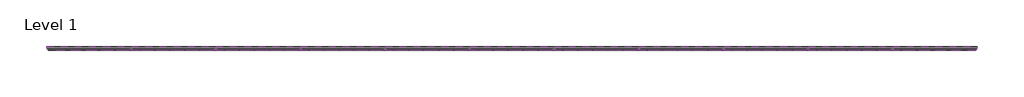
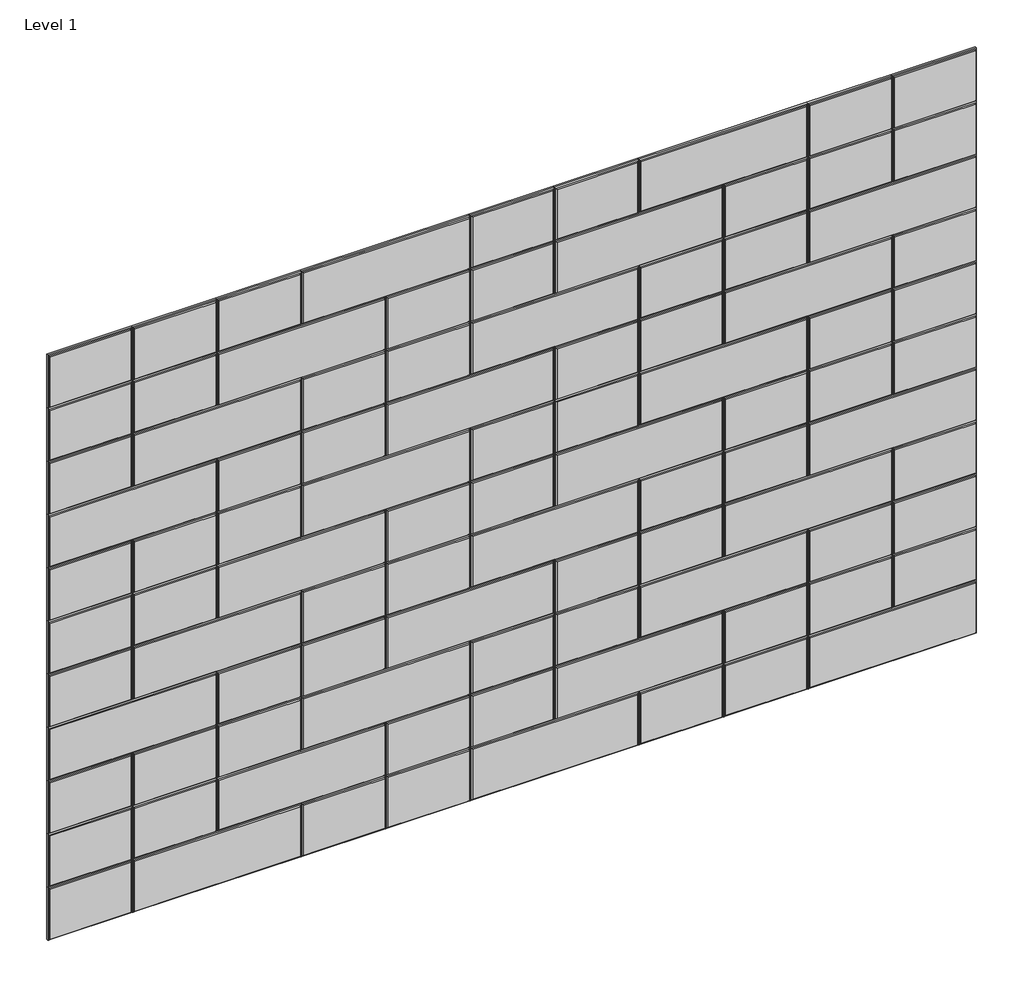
# One storey: 94 proxies.
"""IFC4 building model written with IfcOpenShell, lengths in millimetres."""

from ifc_helpers import new_model, si_unit, origin, place, context, project, spatial, transform, mapped, element, save
from components import specialty_equipment_352826ec, specialty_equipment_34b97818

model = new_model("IFC4")

# Units and contexts
model_context = context("Model", 3, world=origin())
ifc_project = project(units=[si_unit("LENGTHUNIT", "METRE", prefix="MILLI")], contexts=[model_context])

# Site, building, storey
site = spatial("IfcSite", under=ifc_project)
building = spatial("IfcBuilding", under=site)
storey = spatial("IfcBuildingStorey", under=building, Name="Level 1", Elevation=0.0)

# Proxies
placement = place(None, origin())
specialty_equipment_shape = specialty_equipment_352826ec(model_context)
element("IfcBuildingElementProxy", 1, Name="FilzFelt_Rectangle A_Block : Chamfered Edge = 2’-0” x 8” (61 x 20.3 cm)", ObjectType="FilzFelt_Rectangle A_Block : Chamfered Edge = 2’-0” x 8” (61 x 20.3 cm)", at=placement, inside=storey, context=model_context, shape_type="MappedRepresentation", body=[
    mapped(specialty_equipment_shape, transform((39806.1097905, 3946.8352795, 2540.0), x_axis=(1.0, 0.0, 0.0), y_axis=(0.0, 0.0, 1.0), z_axis=(0.0, -1.0, 0.0))),
])
element("IfcBuildingElementProxy", 2, Name="FilzFelt_Rectangle A_Block : Chamfered Edge = 2’-0” x 8” (61 x 20.3 cm)", ObjectType="FilzFelt_Rectangle A_Block : Chamfered Edge = 2’-0” x 8” (61 x 20.3 cm)", at=placement, inside=storey, context=model_context, shape_type="MappedRepresentation", body=[
    mapped(specialty_equipment_shape, transform((38282.1097905, 3946.8352795, 2336.8), x_axis=(1.0, 0.0, 0.0), y_axis=(0.0, 0.0, 1.0), z_axis=(0.0, -1.0, 0.0))),
])
element("IfcBuildingElementProxy", 3, Name="FilzFelt_Rectangle A_Block : Chamfered Edge = 2’-0” x 8” (61 x 20.3 cm)", ObjectType="FilzFelt_Rectangle A_Block : Chamfered Edge = 2’-0” x 8” (61 x 20.3 cm)", at=placement, inside=storey, context=model_context, shape_type="MappedRepresentation", body=[
    mapped(specialty_equipment_shape, transform((37977.3097905, 3946.8352795, 2133.6), x_axis=(1.0, 0.0, 0.0), y_axis=(0.0, 0.0, 1.0), z_axis=(0.0, -1.0, 0.0))),
])
element("IfcBuildingElementProxy", 4, Name="FilzFelt_Rectangle A_Block : Chamfered Edge = 2’-0” x 8” (61 x 20.3 cm)", ObjectType="FilzFelt_Rectangle A_Block : Chamfered Edge = 2’-0” x 8” (61 x 20.3 cm)", at=placement, inside=storey, context=model_context, shape_type="MappedRepresentation", body=[
    mapped(specialty_equipment_shape, transform((40415.7097905, 3946.8352795, 2133.6), x_axis=(1.0, 0.0, 0.0), y_axis=(0.0, 0.0, 1.0), z_axis=(0.0, -1.0, 0.0))),
])
element("IfcBuildingElementProxy", 5, Name="FilzFelt_Rectangle A_Block : Chamfered Edge = 2’-0” x 8” (61 x 20.3 cm)", ObjectType="FilzFelt_Rectangle A_Block : Chamfered Edge = 2’-0” x 8” (61 x 20.3 cm)", at=placement, inside=storey, context=model_context, shape_type="MappedRepresentation", body=[
    mapped(specialty_equipment_shape, transform((38891.7097905, 3946.8352795, 1930.4), x_axis=(1.0, 0.0, 0.0), y_axis=(0.0, 0.0, 1.0), z_axis=(0.0, -1.0, 0.0))),
])
element("IfcBuildingElementProxy", 6, Name="FilzFelt_Rectangle A_Block : Chamfered Edge = 2’-0” x 8” (61 x 20.3 cm)", ObjectType="FilzFelt_Rectangle A_Block : Chamfered Edge = 2’-0” x 8” (61 x 20.3 cm)", at=placement, inside=storey, context=model_context, shape_type="MappedRepresentation", body=[
    mapped(specialty_equipment_shape, transform((38586.9097905, 3946.8352795, 1727.2), x_axis=(1.0, 0.0, 0.0), y_axis=(0.0, 0.0, 1.0), z_axis=(0.0, -1.0, 0.0))),
])
element("IfcBuildingElementProxy", 7, Name="FilzFelt_Rectangle A_Block : Chamfered Edge = 2’-0” x 8” (61 x 20.3 cm)", ObjectType="FilzFelt_Rectangle A_Block : Chamfered Edge = 2’-0” x 8” (61 x 20.3 cm)", at=placement, inside=storey, context=model_context, shape_type="MappedRepresentation", body=[
    mapped(specialty_equipment_shape, transform((39501.3097905, 3946.8352795, 1524.0), x_axis=(1.0, 0.0, 0.0), y_axis=(0.0, 0.0, 1.0), z_axis=(0.0, -1.0, 0.0))),
])
element("IfcBuildingElementProxy", 8, Name="FilzFelt_Rectangle A_Block : Chamfered Edge = 2’-0” x 8” (61 x 20.3 cm)", ObjectType="FilzFelt_Rectangle A_Block : Chamfered Edge = 2’-0” x 8” (61 x 20.3 cm)", at=placement, inside=storey, context=model_context, shape_type="MappedRepresentation", body=[
    mapped(specialty_equipment_shape, transform((39196.5097905, 3946.8352795, 1320.8), x_axis=(1.0, 0.0, 0.0), y_axis=(0.0, 0.0, 1.0), z_axis=(0.0, -1.0, 0.0))),
])
element("IfcBuildingElementProxy", 9, Name="FilzFelt_Rectangle A_Block : Chamfered Edge = 2’-0” x 8” (61 x 20.3 cm)", ObjectType="FilzFelt_Rectangle A_Block : Chamfered Edge = 2’-0” x 8” (61 x 20.3 cm)", at=placement, inside=storey, context=model_context, shape_type="MappedRepresentation", body=[
    mapped(specialty_equipment_shape, transform((40110.9097905, 3946.8352795, 1117.6), x_axis=(1.0, 0.0, 0.0), y_axis=(0.0, 0.0, 1.0), z_axis=(0.0, -1.0, 0.0))),
])
element("IfcBuildingElementProxy", 10, Name="FilzFelt_Rectangle A_Block : Chamfered Edge = 2’-0” x 8” (61 x 20.3 cm)", ObjectType="FilzFelt_Rectangle A_Block : Chamfered Edge = 2’-0” x 8” (61 x 20.3 cm)", at=placement, inside=storey, context=model_context, shape_type="MappedRepresentation", body=[
    mapped(specialty_equipment_shape, transform((37672.5097905, 3946.8352795, 1117.6), x_axis=(1.0, 0.0, 0.0), y_axis=(0.0, 0.0, 1.0), z_axis=(0.0, -1.0, 0.0))),
])
element("IfcBuildingElementProxy", 11, Name="FilzFelt_Rectangle A_Block : Chamfered Edge = 2’-0” x 8” (61 x 20.3 cm)", ObjectType="FilzFelt_Rectangle A_Block : Chamfered Edge = 2’-0” x 8” (61 x 20.3 cm)", at=placement, inside=storey, context=model_context, shape_type="MappedRepresentation", body=[
    mapped(specialty_equipment_shape, transform((39806.1097905, 3946.8352795, 914.4), x_axis=(1.0, 0.0, 0.0), y_axis=(0.0, 0.0, 1.0), z_axis=(0.0, -1.0, 0.0))),
])
element("IfcBuildingElementProxy", 12, Name="FilzFelt_Rectangle A_Block : Chamfered Edge = 2’-0” x 8” (61 x 20.3 cm)", ObjectType="FilzFelt_Rectangle A_Block : Chamfered Edge = 2’-0” x 8” (61 x 20.3 cm)", at=placement, inside=storey, context=model_context, shape_type="MappedRepresentation", body=[
    mapped(specialty_equipment_shape, transform((38282.1097905, 3946.8352795, 711.2), x_axis=(1.0, 0.0, 0.0), y_axis=(0.0, 0.0, 1.0), z_axis=(0.0, -1.0, 0.0))),
])
element("IfcBuildingElementProxy", 13, Name="FilzFelt_Rectangle A_Block : Chamfered Edge = 2’-0” x 8” (61 x 20.3 cm)", ObjectType="FilzFelt_Rectangle A_Block : Chamfered Edge = 2’-0” x 8” (61 x 20.3 cm)", at=placement, inside=storey, context=model_context, shape_type="MappedRepresentation", body=[
    mapped(specialty_equipment_shape, transform((37977.3097905, 3946.8352795, 508.0), x_axis=(1.0, 0.0, 0.0), y_axis=(0.0, 0.0, 1.0), z_axis=(0.0, -1.0, 0.0))),
])
element("IfcBuildingElementProxy", 14, Name="FilzFelt_Rectangle A_Block : Chamfered Edge = 2’-0” x 8” (61 x 20.3 cm)", ObjectType="FilzFelt_Rectangle A_Block : Chamfered Edge = 2’-0” x 8” (61 x 20.3 cm)", at=placement, inside=storey, context=model_context, shape_type="MappedRepresentation", body=[
    mapped(specialty_equipment_shape, transform((40415.7097905, 3946.8352795, 508.0), x_axis=(1.0, 0.0, 0.0), y_axis=(0.0, 0.0, 1.0), z_axis=(0.0, -1.0, 0.0))),
])
element("IfcBuildingElementProxy", 15, Name="FilzFelt_Rectangle A_Block : Chamfered Edge = 2’-0” x 8” (61 x 20.3 cm)", ObjectType="FilzFelt_Rectangle A_Block : Chamfered Edge = 2’-0” x 8” (61 x 20.3 cm)", at=placement, inside=storey, context=model_context, shape_type="MappedRepresentation", body=[
    mapped(specialty_equipment_shape, transform((38586.9097905, 3946.8352795, 2540.0), x_axis=(1.0, 0.0, 0.0), y_axis=(0.0, 0.0, 1.0), z_axis=(0.0, -1.0, 0.0))),
])
element("IfcBuildingElementProxy", 16, Name="FilzFelt_Rectangle A_Block : Chamfered Edge = 2’-0” x 8” (61 x 20.3 cm)", ObjectType="FilzFelt_Rectangle A_Block : Chamfered Edge = 2’-0” x 8” (61 x 20.3 cm)", at=placement, inside=storey, context=model_context, shape_type="MappedRepresentation", body=[
    mapped(specialty_equipment_shape, transform((39501.3097905, 3946.8352795, 2336.8), x_axis=(1.0, 0.0, 0.0), y_axis=(0.0, 0.0, 1.0), z_axis=(0.0, -1.0, 0.0))),
])
element("IfcBuildingElementProxy", 17, Name="FilzFelt_Rectangle A_Block : Chamfered Edge = 2’-0” x 8” (61 x 20.3 cm)", ObjectType="FilzFelt_Rectangle A_Block : Chamfered Edge = 2’-0” x 8” (61 x 20.3 cm)", at=placement, inside=storey, context=model_context, shape_type="MappedRepresentation", body=[
    mapped(specialty_equipment_shape, transform((39196.5097905, 3946.8352795, 2133.6), x_axis=(1.0, 0.0, 0.0), y_axis=(0.0, 0.0, 1.0), z_axis=(0.0, -1.0, 0.0))),
])
element("IfcBuildingElementProxy", 18, Name="FilzFelt_Rectangle A_Block : Chamfered Edge = 2’-0” x 8” (61 x 20.3 cm)", ObjectType="FilzFelt_Rectangle A_Block : Chamfered Edge = 2’-0” x 8” (61 x 20.3 cm)", at=placement, inside=storey, context=model_context, shape_type="MappedRepresentation", body=[
    mapped(specialty_equipment_shape, transform((40110.9097905, 3946.8352795, 1930.4), x_axis=(1.0, 0.0, 0.0), y_axis=(0.0, 0.0, 1.0), z_axis=(0.0, -1.0, 0.0))),
])
element("IfcBuildingElementProxy", 19, Name="FilzFelt_Rectangle A_Block : Chamfered Edge = 2’-0” x 8” (61 x 20.3 cm)", ObjectType="FilzFelt_Rectangle A_Block : Chamfered Edge = 2’-0” x 8” (61 x 20.3 cm)", at=placement, inside=storey, context=model_context, shape_type="MappedRepresentation", body=[
    mapped(specialty_equipment_shape, transform((37672.5097905, 3946.8352795, 1930.4), x_axis=(1.0, 0.0, 0.0), y_axis=(0.0, 0.0, 1.0), z_axis=(0.0, -1.0, 0.0))),
])
element("IfcBuildingElementProxy", 20, Name="FilzFelt_Rectangle A_Block : Chamfered Edge = 2’-0” x 8” (61 x 20.3 cm)", ObjectType="FilzFelt_Rectangle A_Block : Chamfered Edge = 2’-0” x 8” (61 x 20.3 cm)", at=placement, inside=storey, context=model_context, shape_type="MappedRepresentation", body=[
    mapped(specialty_equipment_shape, transform((39806.1097905, 3946.8352795, 1727.2), x_axis=(1.0, 0.0, 0.0), y_axis=(0.0, 0.0, 1.0), z_axis=(0.0, -1.0, 0.0))),
])
element("IfcBuildingElementProxy", 21, Name="FilzFelt_Rectangle A_Block : Chamfered Edge = 2’-0” x 8” (61 x 20.3 cm)", ObjectType="FilzFelt_Rectangle A_Block : Chamfered Edge = 2’-0” x 8” (61 x 20.3 cm)", at=placement, inside=storey, context=model_context, shape_type="MappedRepresentation", body=[
    mapped(specialty_equipment_shape, transform((37977.3097905, 3946.8352795, 1320.8), x_axis=(1.0, 0.0, 0.0), y_axis=(0.0, 0.0, 1.0), z_axis=(0.0, -1.0, 0.0))),
])
element("IfcBuildingElementProxy", 22, Name="FilzFelt_Rectangle A_Block : Chamfered Edge = 2’-0” x 8” (61 x 20.3 cm)", ObjectType="FilzFelt_Rectangle A_Block : Chamfered Edge = 2’-0” x 8” (61 x 20.3 cm)", at=placement, inside=storey, context=model_context, shape_type="MappedRepresentation", body=[
    mapped(specialty_equipment_shape, transform((40415.7097905, 3946.8352795, 1320.8), x_axis=(1.0, 0.0, 0.0), y_axis=(0.0, 0.0, 1.0), z_axis=(0.0, -1.0, 0.0))),
])
element("IfcBuildingElementProxy", 23, Name="FilzFelt_Rectangle A_Block : Chamfered Edge = 2’-0” x 8” (61 x 20.3 cm)", ObjectType="FilzFelt_Rectangle A_Block : Chamfered Edge = 2’-0” x 8” (61 x 20.3 cm)", at=placement, inside=storey, context=model_context, shape_type="MappedRepresentation", body=[
    mapped(specialty_equipment_shape, transform((38282.1097905, 3946.8352795, 1524.0), x_axis=(1.0, 0.0, 0.0), y_axis=(0.0, 0.0, 1.0), z_axis=(0.0, -1.0, 0.0))),
])
element("IfcBuildingElementProxy", 24, Name="FilzFelt_Rectangle A_Block : Chamfered Edge = 2’-0” x 8” (61 x 20.3 cm)", ObjectType="FilzFelt_Rectangle A_Block : Chamfered Edge = 2’-0” x 8” (61 x 20.3 cm)", at=placement, inside=storey, context=model_context, shape_type="MappedRepresentation", body=[
    mapped(specialty_equipment_shape, transform((38891.7097905, 3946.8352795, 1117.6), x_axis=(1.0, 0.0, 0.0), y_axis=(0.0, 0.0, 1.0), z_axis=(0.0, -1.0, 0.0))),
])
element("IfcBuildingElementProxy", 25, Name="FilzFelt_Rectangle A_Block : Chamfered Edge = 2’-0” x 8” (61 x 20.3 cm)", ObjectType="FilzFelt_Rectangle A_Block : Chamfered Edge = 2’-0” x 8” (61 x 20.3 cm)", at=placement, inside=storey, context=model_context, shape_type="MappedRepresentation", body=[
    mapped(specialty_equipment_shape, transform((38586.9097905, 3946.8352795, 914.4), x_axis=(1.0, 0.0, 0.0), y_axis=(0.0, 0.0, 1.0), z_axis=(0.0, -1.0, 0.0))),
])
element("IfcBuildingElementProxy", 26, Name="FilzFelt_Rectangle A_Block : Chamfered Edge = 2’-0” x 8” (61 x 20.3 cm)", ObjectType="FilzFelt_Rectangle A_Block : Chamfered Edge = 2’-0” x 8” (61 x 20.3 cm)", at=placement, inside=storey, context=model_context, shape_type="MappedRepresentation", body=[
    mapped(specialty_equipment_shape, transform((39501.3097905, 3946.8352795, 711.2), x_axis=(1.0, 0.0, 0.0), y_axis=(0.0, 0.0, 1.0), z_axis=(0.0, -1.0, 0.0))),
])
element("IfcBuildingElementProxy", 27, Name="FilzFelt_Rectangle A_Block : Chamfered Edge = 2’-0” x 8” (61 x 20.3 cm)", ObjectType="FilzFelt_Rectangle A_Block : Chamfered Edge = 2’-0” x 8” (61 x 20.3 cm)", at=placement, inside=storey, context=model_context, shape_type="MappedRepresentation", body=[
    mapped(specialty_equipment_shape, transform((39196.5097905, 3946.8352795, 508.0), x_axis=(1.0, 0.0, 0.0), y_axis=(0.0, 0.0, 1.0), z_axis=(0.0, -1.0, 0.0))),
])
specialty_equipment_2_shape = specialty_equipment_34b97818(model_context)
element("IfcBuildingElementProxy", 28, Name="FilzFelt_Rectangle B_Block : Chamfered Edge = 1’-0” x 8” (30.5 x 20.3 cm)", ObjectType="FilzFelt_Rectangle B_Block : Chamfered Edge = 1’-0” x 8” (30.5 x 20.3 cm)", at=placement, inside=storey, context=model_context, shape_type="MappedRepresentation", body=[
    mapped(specialty_equipment_2_shape, transform((37520.1097905, 3946.8352795, 2540.0), x_axis=(1.0, 0.0, 0.0), y_axis=(0.0, 0.0, 1.0), z_axis=(0.0, -1.0, 0.0))),
])
element("IfcBuildingElementProxy", 29, Name="FilzFelt_Rectangle B_Block : Chamfered Edge = 1’-0” x 8” (30.5 x 20.3 cm)", ObjectType="FilzFelt_Rectangle B_Block : Chamfered Edge = 1’-0” x 8” (30.5 x 20.3 cm)", at=placement, inside=storey, context=model_context, shape_type="MappedRepresentation", body=[
    mapped(specialty_equipment_2_shape, transform((38129.7097905, 3946.8352795, 2540.0), x_axis=(1.0, 0.0, 0.0), y_axis=(0.0, 0.0, 1.0), z_axis=(0.0, -1.0, 0.0))),
])
element("IfcBuildingElementProxy", 30, Name="FilzFelt_Rectangle B_Block : Chamfered Edge = 1’-0” x 8” (30.5 x 20.3 cm)", ObjectType="FilzFelt_Rectangle B_Block : Chamfered Edge = 1’-0” x 8” (30.5 x 20.3 cm)", at=placement, inside=storey, context=model_context, shape_type="MappedRepresentation", body=[
    mapped(specialty_equipment_2_shape, transform((40568.1097905, 3946.8352795, 2540.0), x_axis=(1.0, 0.0, 0.0), y_axis=(0.0, 0.0, 1.0), z_axis=(0.0, -1.0, 0.0))),
])
element("IfcBuildingElementProxy", 31, Name="FilzFelt_Rectangle B_Block : Chamfered Edge = 1’-0” x 8” (30.5 x 20.3 cm)", ObjectType="FilzFelt_Rectangle B_Block : Chamfered Edge = 1’-0” x 8” (30.5 x 20.3 cm)", at=placement, inside=storey, context=model_context, shape_type="MappedRepresentation", body=[
    mapped(specialty_equipment_2_shape, transform((39044.1097905, 3946.8352795, 2540.0), x_axis=(1.0, 0.0, 0.0), y_axis=(0.0, 0.0, 1.0), z_axis=(0.0, -1.0, 0.0))),
])
element("IfcBuildingElementProxy", 32, Name="FilzFelt_Rectangle B_Block : Chamfered Edge = 1’-0” x 8” (30.5 x 20.3 cm)", ObjectType="FilzFelt_Rectangle B_Block : Chamfered Edge = 1’-0” x 8” (30.5 x 20.3 cm)", at=placement, inside=storey, context=model_context, shape_type="MappedRepresentation", body=[
    mapped(specialty_equipment_2_shape, transform((40568.1097905, 3946.8352795, 2336.8), x_axis=(1.0, 0.0, 0.0), y_axis=(0.0, 0.0, 1.0), z_axis=(0.0, -1.0, 0.0))),
])
element("IfcBuildingElementProxy", 33, Name="FilzFelt_Rectangle B_Block : Chamfered Edge = 1’-0” x 8” (30.5 x 20.3 cm)", ObjectType="FilzFelt_Rectangle B_Block : Chamfered Edge = 1’-0” x 8” (30.5 x 20.3 cm)", at=placement, inside=storey, context=model_context, shape_type="MappedRepresentation", body=[
    mapped(specialty_equipment_2_shape, transform((39958.5097905, 3946.8352795, 2336.8), x_axis=(1.0, 0.0, 0.0), y_axis=(0.0, 0.0, 1.0), z_axis=(0.0, -1.0, 0.0))),
])
element("IfcBuildingElementProxy", 34, Name="FilzFelt_Rectangle B_Block : Chamfered Edge = 1’-0” x 8” (30.5 x 20.3 cm)", ObjectType="FilzFelt_Rectangle B_Block : Chamfered Edge = 1’-0” x 8” (30.5 x 20.3 cm)", at=placement, inside=storey, context=model_context, shape_type="MappedRepresentation", body=[
    mapped(specialty_equipment_2_shape, transform((39044.1097905, 3946.8352795, 2336.8), x_axis=(1.0, 0.0, 0.0), y_axis=(0.0, 0.0, 1.0), z_axis=(0.0, -1.0, 0.0))),
])
element("IfcBuildingElementProxy", 35, Name="FilzFelt_Rectangle B_Block : Chamfered Edge = 1’-0” x 8” (30.5 x 20.3 cm)", ObjectType="FilzFelt_Rectangle B_Block : Chamfered Edge = 1’-0” x 8” (30.5 x 20.3 cm)", at=placement, inside=storey, context=model_context, shape_type="MappedRepresentation", body=[
    mapped(specialty_equipment_2_shape, transform((37520.1097905, 3946.8352795, 2336.8), x_axis=(1.0, 0.0, 0.0), y_axis=(0.0, 0.0, 1.0), z_axis=(0.0, -1.0, 0.0))),
])
element("IfcBuildingElementProxy", 36, Name="FilzFelt_Rectangle B_Block : Chamfered Edge = 1’-0” x 8” (30.5 x 20.3 cm)", ObjectType="FilzFelt_Rectangle B_Block : Chamfered Edge = 1’-0” x 8” (30.5 x 20.3 cm)", at=placement, inside=storey, context=model_context, shape_type="MappedRepresentation", body=[
    mapped(specialty_equipment_2_shape, transform((38739.3097905, 3946.8352795, 2133.6), x_axis=(1.0, 0.0, 0.0), y_axis=(0.0, 0.0, 1.0), z_axis=(0.0, -1.0, 0.0))),
])
element("IfcBuildingElementProxy", 37, Name="FilzFelt_Rectangle B_Block : Chamfered Edge = 1’-0” x 8” (30.5 x 20.3 cm)", ObjectType="FilzFelt_Rectangle B_Block : Chamfered Edge = 1’-0” x 8” (30.5 x 20.3 cm)", at=placement, inside=storey, context=model_context, shape_type="MappedRepresentation", body=[
    mapped(specialty_equipment_2_shape, transform((39653.7097905, 3946.8352795, 2133.6), x_axis=(1.0, 0.0, 0.0), y_axis=(0.0, 0.0, 1.0), z_axis=(0.0, -1.0, 0.0))),
])
element("IfcBuildingElementProxy", 38, Name="FilzFelt_Rectangle B_Block : Chamfered Edge = 1’-0” x 8” (30.5 x 20.3 cm)", ObjectType="FilzFelt_Rectangle B_Block : Chamfered Edge = 1’-0” x 8” (30.5 x 20.3 cm)", at=placement, inside=storey, context=model_context, shape_type="MappedRepresentation", body=[
    mapped(specialty_equipment_2_shape, transform((40568.1097905, 3946.8352795, 1930.4), x_axis=(1.0, 0.0, 0.0), y_axis=(0.0, 0.0, 1.0), z_axis=(0.0, -1.0, 0.0))),
])
element("IfcBuildingElementProxy", 39, Name="FilzFelt_Rectangle B_Block : Chamfered Edge = 1’-0” x 8” (30.5 x 20.3 cm)", ObjectType="FilzFelt_Rectangle B_Block : Chamfered Edge = 1’-0” x 8” (30.5 x 20.3 cm)", at=placement, inside=storey, context=model_context, shape_type="MappedRepresentation", body=[
    mapped(specialty_equipment_2_shape, transform((39653.7097905, 3946.8352795, 1930.4), x_axis=(1.0, 0.0, 0.0), y_axis=(0.0, 0.0, 1.0), z_axis=(0.0, -1.0, 0.0))),
])
element("IfcBuildingElementProxy", 40, Name="FilzFelt_Rectangle B_Block : Chamfered Edge = 1’-0” x 8” (30.5 x 20.3 cm)", ObjectType="FilzFelt_Rectangle B_Block : Chamfered Edge = 1’-0” x 8” (30.5 x 20.3 cm)", at=placement, inside=storey, context=model_context, shape_type="MappedRepresentation", body=[
    mapped(specialty_equipment_2_shape, transform((38129.7097905, 3946.8352795, 1930.4), x_axis=(1.0, 0.0, 0.0), y_axis=(0.0, 0.0, 1.0), z_axis=(0.0, -1.0, 0.0))),
])
element("IfcBuildingElementProxy", 41, Name="FilzFelt_Rectangle B_Block : Chamfered Edge = 1’-0” x 8” (30.5 x 20.3 cm)", ObjectType="FilzFelt_Rectangle B_Block : Chamfered Edge = 1’-0” x 8” (30.5 x 20.3 cm)", at=placement, inside=storey, context=model_context, shape_type="MappedRepresentation", body=[
    mapped(specialty_equipment_2_shape, transform((37824.9097905, 3946.8352795, 1727.2), x_axis=(1.0, 0.0, 0.0), y_axis=(0.0, 0.0, 1.0), z_axis=(0.0, -1.0, 0.0))),
])
element("IfcBuildingElementProxy", 42, Name="FilzFelt_Rectangle B_Block : Chamfered Edge = 1’-0” x 8” (30.5 x 20.3 cm)", ObjectType="FilzFelt_Rectangle B_Block : Chamfered Edge = 1’-0” x 8” (30.5 x 20.3 cm)", at=placement, inside=storey, context=model_context, shape_type="MappedRepresentation", body=[
    mapped(specialty_equipment_2_shape, transform((40263.3097905, 3946.8352795, 1727.2), x_axis=(1.0, 0.0, 0.0), y_axis=(0.0, 0.0, 1.0), z_axis=(0.0, -1.0, 0.0))),
])
element("IfcBuildingElementProxy", 43, Name="FilzFelt_Rectangle B_Block : Chamfered Edge = 1’-0” x 8” (30.5 x 20.3 cm)", ObjectType="FilzFelt_Rectangle B_Block : Chamfered Edge = 1’-0” x 8” (30.5 x 20.3 cm)", at=placement, inside=storey, context=model_context, shape_type="MappedRepresentation", body=[
    mapped(specialty_equipment_2_shape, transform((39348.9097905, 3946.8352795, 1727.2), x_axis=(1.0, 0.0, 0.0), y_axis=(0.0, 0.0, 1.0), z_axis=(0.0, -1.0, 0.0))),
])
element("IfcBuildingElementProxy", 44, Name="FilzFelt_Rectangle B_Block : Chamfered Edge = 1’-0” x 8” (30.5 x 20.3 cm)", ObjectType="FilzFelt_Rectangle B_Block : Chamfered Edge = 1’-0” x 8” (30.5 x 20.3 cm)", at=placement, inside=storey, context=model_context, shape_type="MappedRepresentation", body=[
    mapped(specialty_equipment_2_shape, transform((40263.3097905, 3946.8352795, 1524.0), x_axis=(1.0, 0.0, 0.0), y_axis=(0.0, 0.0, 1.0), z_axis=(0.0, -1.0, 0.0))),
])
element("IfcBuildingElementProxy", 45, Name="FilzFelt_Rectangle B_Block : Chamfered Edge = 1’-0” x 8” (30.5 x 20.3 cm)", ObjectType="FilzFelt_Rectangle B_Block : Chamfered Edge = 1’-0” x 8” (30.5 x 20.3 cm)", at=placement, inside=storey, context=model_context, shape_type="MappedRepresentation", body=[
    mapped(specialty_equipment_2_shape, transform((37520.1097905, 3946.8352795, 1320.8), x_axis=(1.0, 0.0, 0.0), y_axis=(0.0, 0.0, 1.0), z_axis=(0.0, -1.0, 0.0))),
])
element("IfcBuildingElementProxy", 46, Name="FilzFelt_Rectangle B_Block : Chamfered Edge = 1’-0” x 8” (30.5 x 20.3 cm)", ObjectType="FilzFelt_Rectangle B_Block : Chamfered Edge = 1’-0” x 8” (30.5 x 20.3 cm)", at=placement, inside=storey, context=model_context, shape_type="MappedRepresentation", body=[
    mapped(specialty_equipment_2_shape, transform((38434.5097905, 3946.8352795, 1320.8), x_axis=(1.0, 0.0, 0.0), y_axis=(0.0, 0.0, 1.0), z_axis=(0.0, -1.0, 0.0))),
])
element("IfcBuildingElementProxy", 47, Name="FilzFelt_Rectangle B_Block : Chamfered Edge = 1’-0” x 8” (30.5 x 20.3 cm)", ObjectType="FilzFelt_Rectangle B_Block : Chamfered Edge = 1’-0” x 8” (30.5 x 20.3 cm)", at=placement, inside=storey, context=model_context, shape_type="MappedRepresentation", body=[
    mapped(specialty_equipment_2_shape, transform((39958.5097905, 3946.8352795, 1320.8), x_axis=(1.0, 0.0, 0.0), y_axis=(0.0, 0.0, 1.0), z_axis=(0.0, -1.0, 0.0))),
])
element("IfcBuildingElementProxy", 48, Name="FilzFelt_Rectangle B_Block : Chamfered Edge = 1’-0” x 8” (30.5 x 20.3 cm)", ObjectType="FilzFelt_Rectangle B_Block : Chamfered Edge = 1’-0” x 8” (30.5 x 20.3 cm)", at=placement, inside=storey, context=model_context, shape_type="MappedRepresentation", body=[
    mapped(specialty_equipment_2_shape, transform((38739.3097905, 3946.8352795, 1524.0), x_axis=(1.0, 0.0, 0.0), y_axis=(0.0, 0.0, 1.0), z_axis=(0.0, -1.0, 0.0))),
])
element("IfcBuildingElementProxy", 49, Name="FilzFelt_Rectangle B_Block : Chamfered Edge = 1’-0” x 8” (30.5 x 20.3 cm)", ObjectType="FilzFelt_Rectangle B_Block : Chamfered Edge = 1’-0” x 8” (30.5 x 20.3 cm)", at=placement, inside=storey, context=model_context, shape_type="MappedRepresentation", body=[
    mapped(specialty_equipment_2_shape, transform((37824.9097905, 3946.8352795, 1524.0), x_axis=(1.0, 0.0, 0.0), y_axis=(0.0, 0.0, 1.0), z_axis=(0.0, -1.0, 0.0))),
])
element("IfcBuildingElementProxy", 50, Name="FilzFelt_Rectangle B_Block : Chamfered Edge = 1’-0” x 8” (30.5 x 20.3 cm)", ObjectType="FilzFelt_Rectangle B_Block : Chamfered Edge = 1’-0” x 8” (30.5 x 20.3 cm)", at=placement, inside=storey, context=model_context, shape_type="MappedRepresentation", body=[
    mapped(specialty_equipment_2_shape, transform((39348.9097905, 3946.8352795, 1117.6), x_axis=(1.0, 0.0, 0.0), y_axis=(0.0, 0.0, 1.0), z_axis=(0.0, -1.0, 0.0))),
])
element("IfcBuildingElementProxy", 51, Name="FilzFelt_Rectangle B_Block : Chamfered Edge = 1’-0” x 8” (30.5 x 20.3 cm)", ObjectType="FilzFelt_Rectangle B_Block : Chamfered Edge = 1’-0” x 8” (30.5 x 20.3 cm)", at=placement, inside=storey, context=model_context, shape_type="MappedRepresentation", body=[
    mapped(specialty_equipment_2_shape, transform((38434.5097905, 3946.8352795, 1117.6), x_axis=(1.0, 0.0, 0.0), y_axis=(0.0, 0.0, 1.0), z_axis=(0.0, -1.0, 0.0))),
])
element("IfcBuildingElementProxy", 52, Name="FilzFelt_Rectangle B_Block : Chamfered Edge = 1’-0” x 8” (30.5 x 20.3 cm)", ObjectType="FilzFelt_Rectangle B_Block : Chamfered Edge = 1’-0” x 8” (30.5 x 20.3 cm)", at=placement, inside=storey, context=model_context, shape_type="MappedRepresentation", body=[
    mapped(specialty_equipment_2_shape, transform((39044.1097905, 3946.8352795, 914.4), x_axis=(1.0, 0.0, 0.0), y_axis=(0.0, 0.0, 1.0), z_axis=(0.0, -1.0, 0.0))),
])
element("IfcBuildingElementProxy", 53, Name="FilzFelt_Rectangle B_Block : Chamfered Edge = 1’-0” x 8” (30.5 x 20.3 cm)", ObjectType="FilzFelt_Rectangle B_Block : Chamfered Edge = 1’-0” x 8” (30.5 x 20.3 cm)", at=placement, inside=storey, context=model_context, shape_type="MappedRepresentation", body=[
    mapped(specialty_equipment_2_shape, transform((38129.7097905, 3946.8352795, 914.4), x_axis=(1.0, 0.0, 0.0), y_axis=(0.0, 0.0, 1.0), z_axis=(0.0, -1.0, 0.0))),
])
element("IfcBuildingElementProxy", 54, Name="FilzFelt_Rectangle B_Block : Chamfered Edge = 1’-0” x 8” (30.5 x 20.3 cm)", ObjectType="FilzFelt_Rectangle B_Block : Chamfered Edge = 1’-0” x 8” (30.5 x 20.3 cm)", at=placement, inside=storey, context=model_context, shape_type="MappedRepresentation", body=[
    mapped(specialty_equipment_2_shape, transform((37520.1097905, 3946.8352795, 914.4), x_axis=(1.0, 0.0, 0.0), y_axis=(0.0, 0.0, 1.0), z_axis=(0.0, -1.0, 0.0))),
])
element("IfcBuildingElementProxy", 55, Name="FilzFelt_Rectangle B_Block : Chamfered Edge = 1’-0” x 8” (30.5 x 20.3 cm)", ObjectType="FilzFelt_Rectangle B_Block : Chamfered Edge = 1’-0” x 8” (30.5 x 20.3 cm)", at=placement, inside=storey, context=model_context, shape_type="MappedRepresentation", body=[
    mapped(specialty_equipment_2_shape, transform((40568.1097905, 3946.8352795, 914.4), x_axis=(1.0, 0.0, 0.0), y_axis=(0.0, 0.0, 1.0), z_axis=(0.0, -1.0, 0.0))),
])
element("IfcBuildingElementProxy", 56, Name="FilzFelt_Rectangle B_Block : Chamfered Edge = 1’-0” x 8” (30.5 x 20.3 cm)", ObjectType="FilzFelt_Rectangle B_Block : Chamfered Edge = 1’-0” x 8” (30.5 x 20.3 cm)", at=placement, inside=storey, context=model_context, shape_type="MappedRepresentation", body=[
    mapped(specialty_equipment_2_shape, transform((40568.1097905, 3946.8352795, 711.2), x_axis=(1.0, 0.0, 0.0), y_axis=(0.0, 0.0, 1.0), z_axis=(0.0, -1.0, 0.0))),
])
element("IfcBuildingElementProxy", 57, Name="FilzFelt_Rectangle B_Block : Chamfered Edge = 1’-0” x 8” (30.5 x 20.3 cm)", ObjectType="FilzFelt_Rectangle B_Block : Chamfered Edge = 1’-0” x 8” (30.5 x 20.3 cm)", at=placement, inside=storey, context=model_context, shape_type="MappedRepresentation", body=[
    mapped(specialty_equipment_2_shape, transform((39958.5097905, 3946.8352795, 711.2), x_axis=(1.0, 0.0, 0.0), y_axis=(0.0, 0.0, 1.0), z_axis=(0.0, -1.0, 0.0))),
])
element("IfcBuildingElementProxy", 58, Name="FilzFelt_Rectangle B_Block : Chamfered Edge = 1’-0” x 8” (30.5 x 20.3 cm)", ObjectType="FilzFelt_Rectangle B_Block : Chamfered Edge = 1’-0” x 8” (30.5 x 20.3 cm)", at=placement, inside=storey, context=model_context, shape_type="MappedRepresentation", body=[
    mapped(specialty_equipment_2_shape, transform((39044.1097905, 3946.8352795, 711.2), x_axis=(1.0, 0.0, 0.0), y_axis=(0.0, 0.0, 1.0), z_axis=(0.0, -1.0, 0.0))),
])
element("IfcBuildingElementProxy", 59, Name="FilzFelt_Rectangle B_Block : Chamfered Edge = 1’-0” x 8” (30.5 x 20.3 cm)", ObjectType="FilzFelt_Rectangle B_Block : Chamfered Edge = 1’-0” x 8” (30.5 x 20.3 cm)", at=placement, inside=storey, context=model_context, shape_type="MappedRepresentation", body=[
    mapped(specialty_equipment_2_shape, transform((37520.1097905, 3946.8352795, 711.2), x_axis=(1.0, 0.0, 0.0), y_axis=(0.0, 0.0, 1.0), z_axis=(0.0, -1.0, 0.0))),
])
element("IfcBuildingElementProxy", 60, Name="FilzFelt_Rectangle B_Block : Chamfered Edge = 1’-0” x 8” (30.5 x 20.3 cm)", ObjectType="FilzFelt_Rectangle B_Block : Chamfered Edge = 1’-0” x 8” (30.5 x 20.3 cm)", at=placement, inside=storey, context=model_context, shape_type="MappedRepresentation", body=[
    mapped(specialty_equipment_2_shape, transform((38739.3097905, 3946.8352795, 508.0), x_axis=(1.0, 0.0, 0.0), y_axis=(0.0, 0.0, 1.0), z_axis=(0.0, -1.0, 0.0))),
])
element("IfcBuildingElementProxy", 61, Name="FilzFelt_Rectangle B_Block : Chamfered Edge = 1’-0” x 8” (30.5 x 20.3 cm)", ObjectType="FilzFelt_Rectangle B_Block : Chamfered Edge = 1’-0” x 8” (30.5 x 20.3 cm)", at=placement, inside=storey, context=model_context, shape_type="MappedRepresentation", body=[
    mapped(specialty_equipment_2_shape, transform((39653.7097905, 3946.8352795, 508.0), x_axis=(1.0, 0.0, 0.0), y_axis=(0.0, 0.0, 1.0), z_axis=(0.0, -1.0, 0.0))),
])
element("IfcBuildingElementProxy", 62, Name="FilzFelt_Rectangle B_Block : Chamfered Edge = 1’-0” x 8” (30.5 x 20.3 cm)", ObjectType="FilzFelt_Rectangle B_Block : Chamfered Edge = 1’-0” x 8” (30.5 x 20.3 cm)", at=placement, inside=storey, context=model_context, shape_type="MappedRepresentation", body=[
    mapped(specialty_equipment_2_shape, transform((39348.9097905, 3946.8352795, 2540.0), x_axis=(1.0, 0.0, 0.0), y_axis=(0.0, 0.0, 1.0), z_axis=(0.0, -1.0, 0.0))),
])
element("IfcBuildingElementProxy", 63, Name="FilzFelt_Rectangle B_Block : Chamfered Edge = 1’-0” x 8” (30.5 x 20.3 cm)", ObjectType="FilzFelt_Rectangle B_Block : Chamfered Edge = 1’-0” x 8” (30.5 x 20.3 cm)", at=placement, inside=storey, context=model_context, shape_type="MappedRepresentation", body=[
    mapped(specialty_equipment_2_shape, transform((37824.9097905, 3946.8352795, 2540.0), x_axis=(1.0, 0.0, 0.0), y_axis=(0.0, 0.0, 1.0), z_axis=(0.0, -1.0, 0.0))),
])
element("IfcBuildingElementProxy", 64, Name="FilzFelt_Rectangle B_Block : Chamfered Edge = 1’-0” x 8” (30.5 x 20.3 cm)", ObjectType="FilzFelt_Rectangle B_Block : Chamfered Edge = 1’-0” x 8” (30.5 x 20.3 cm)", at=placement, inside=storey, context=model_context, shape_type="MappedRepresentation", body=[
    mapped(specialty_equipment_2_shape, transform((40263.3097905, 3946.8352795, 2336.8), x_axis=(1.0, 0.0, 0.0), y_axis=(0.0, 0.0, 1.0), z_axis=(0.0, -1.0, 0.0))),
])
element("IfcBuildingElementProxy", 65, Name="FilzFelt_Rectangle B_Block : Chamfered Edge = 1’-0” x 8” (30.5 x 20.3 cm)", ObjectType="FilzFelt_Rectangle B_Block : Chamfered Edge = 1’-0” x 8” (30.5 x 20.3 cm)", at=placement, inside=storey, context=model_context, shape_type="MappedRepresentation", body=[
    mapped(specialty_equipment_2_shape, transform((38739.3097905, 3946.8352795, 2336.8), x_axis=(1.0, 0.0, 0.0), y_axis=(0.0, 0.0, 1.0), z_axis=(0.0, -1.0, 0.0))),
])
element("IfcBuildingElementProxy", 66, Name="FilzFelt_Rectangle B_Block : Chamfered Edge = 1’-0” x 8” (30.5 x 20.3 cm)", ObjectType="FilzFelt_Rectangle B_Block : Chamfered Edge = 1’-0” x 8” (30.5 x 20.3 cm)", at=placement, inside=storey, context=model_context, shape_type="MappedRepresentation", body=[
    mapped(specialty_equipment_2_shape, transform((37824.9097905, 3946.8352795, 2336.8), x_axis=(1.0, 0.0, 0.0), y_axis=(0.0, 0.0, 1.0), z_axis=(0.0, -1.0, 0.0))),
])
element("IfcBuildingElementProxy", 67, Name="FilzFelt_Rectangle B_Block : Chamfered Edge = 1’-0” x 8” (30.5 x 20.3 cm)", ObjectType="FilzFelt_Rectangle B_Block : Chamfered Edge = 1’-0” x 8” (30.5 x 20.3 cm)", at=placement, inside=storey, context=model_context, shape_type="MappedRepresentation", body=[
    mapped(specialty_equipment_2_shape, transform((37520.1097905, 3946.8352795, 2133.6), x_axis=(1.0, 0.0, 0.0), y_axis=(0.0, 0.0, 1.0), z_axis=(0.0, -1.0, 0.0))),
])
element("IfcBuildingElementProxy", 68, Name="FilzFelt_Rectangle B_Block : Chamfered Edge = 1’-0” x 8” (30.5 x 20.3 cm)", ObjectType="FilzFelt_Rectangle B_Block : Chamfered Edge = 1’-0” x 8” (30.5 x 20.3 cm)", at=placement, inside=storey, context=model_context, shape_type="MappedRepresentation", body=[
    mapped(specialty_equipment_2_shape, transform((38434.5097905, 3946.8352795, 2133.6), x_axis=(1.0, 0.0, 0.0), y_axis=(0.0, 0.0, 1.0), z_axis=(0.0, -1.0, 0.0))),
])
element("IfcBuildingElementProxy", 69, Name="FilzFelt_Rectangle B_Block : Chamfered Edge = 1’-0” x 8” (30.5 x 20.3 cm)", ObjectType="FilzFelt_Rectangle B_Block : Chamfered Edge = 1’-0” x 8” (30.5 x 20.3 cm)", at=placement, inside=storey, context=model_context, shape_type="MappedRepresentation", body=[
    mapped(specialty_equipment_2_shape, transform((39958.5097905, 3946.8352795, 2133.6), x_axis=(1.0, 0.0, 0.0), y_axis=(0.0, 0.0, 1.0), z_axis=(0.0, -1.0, 0.0))),
])
element("IfcBuildingElementProxy", 70, Name="FilzFelt_Rectangle B_Block : Chamfered Edge = 1’-0” x 8” (30.5 x 20.3 cm)", ObjectType="FilzFelt_Rectangle B_Block : Chamfered Edge = 1’-0” x 8” (30.5 x 20.3 cm)", at=placement, inside=storey, context=model_context, shape_type="MappedRepresentation", body=[
    mapped(specialty_equipment_2_shape, transform((40263.3097905, 3946.8352795, 2540.0), x_axis=(1.0, 0.0, 0.0), y_axis=(0.0, 0.0, 1.0), z_axis=(0.0, -1.0, 0.0))),
])
element("IfcBuildingElementProxy", 71, Name="FilzFelt_Rectangle B_Block : Chamfered Edge = 1’-0” x 8” (30.5 x 20.3 cm)", ObjectType="FilzFelt_Rectangle B_Block : Chamfered Edge = 1’-0” x 8” (30.5 x 20.3 cm)", at=placement, inside=storey, context=model_context, shape_type="MappedRepresentation", body=[
    mapped(specialty_equipment_2_shape, transform((39348.9097905, 3946.8352795, 1930.4), x_axis=(1.0, 0.0, 0.0), y_axis=(0.0, 0.0, 1.0), z_axis=(0.0, -1.0, 0.0))),
])
element("IfcBuildingElementProxy", 72, Name="FilzFelt_Rectangle B_Block : Chamfered Edge = 1’-0” x 8” (30.5 x 20.3 cm)", ObjectType="FilzFelt_Rectangle B_Block : Chamfered Edge = 1’-0” x 8” (30.5 x 20.3 cm)", at=placement, inside=storey, context=model_context, shape_type="MappedRepresentation", body=[
    mapped(specialty_equipment_2_shape, transform((38434.5097905, 3946.8352795, 1930.4), x_axis=(1.0, 0.0, 0.0), y_axis=(0.0, 0.0, 1.0), z_axis=(0.0, -1.0, 0.0))),
])
element("IfcBuildingElementProxy", 73, Name="FilzFelt_Rectangle B_Block : Chamfered Edge = 1’-0” x 8” (30.5 x 20.3 cm)", ObjectType="FilzFelt_Rectangle B_Block : Chamfered Edge = 1’-0” x 8” (30.5 x 20.3 cm)", at=placement, inside=storey, context=model_context, shape_type="MappedRepresentation", body=[
    mapped(specialty_equipment_2_shape, transform((37520.1097905, 3946.8352795, 1727.2), x_axis=(1.0, 0.0, 0.0), y_axis=(0.0, 0.0, 1.0), z_axis=(0.0, -1.0, 0.0))),
])
element("IfcBuildingElementProxy", 74, Name="FilzFelt_Rectangle B_Block : Chamfered Edge = 1’-0” x 8” (30.5 x 20.3 cm)", ObjectType="FilzFelt_Rectangle B_Block : Chamfered Edge = 1’-0” x 8” (30.5 x 20.3 cm)", at=placement, inside=storey, context=model_context, shape_type="MappedRepresentation", body=[
    mapped(specialty_equipment_2_shape, transform((38129.7097905, 3946.8352795, 1727.2), x_axis=(1.0, 0.0, 0.0), y_axis=(0.0, 0.0, 1.0), z_axis=(0.0, -1.0, 0.0))),
])
element("IfcBuildingElementProxy", 75, Name="FilzFelt_Rectangle B_Block : Chamfered Edge = 1’-0” x 8” (30.5 x 20.3 cm)", ObjectType="FilzFelt_Rectangle B_Block : Chamfered Edge = 1’-0” x 8” (30.5 x 20.3 cm)", at=placement, inside=storey, context=model_context, shape_type="MappedRepresentation", body=[
    mapped(specialty_equipment_2_shape, transform((39044.1097905, 3946.8352795, 1727.2), x_axis=(1.0, 0.0, 0.0), y_axis=(0.0, 0.0, 1.0), z_axis=(0.0, -1.0, 0.0))),
])
element("IfcBuildingElementProxy", 76, Name="FilzFelt_Rectangle B_Block : Chamfered Edge = 1’-0” x 8” (30.5 x 20.3 cm)", ObjectType="FilzFelt_Rectangle B_Block : Chamfered Edge = 1’-0” x 8” (30.5 x 20.3 cm)", at=placement, inside=storey, context=model_context, shape_type="MappedRepresentation", body=[
    mapped(specialty_equipment_2_shape, transform((40568.1097905, 3946.8352795, 1727.2), x_axis=(1.0, 0.0, 0.0), y_axis=(0.0, 0.0, 1.0), z_axis=(0.0, -1.0, 0.0))),
])
element("IfcBuildingElementProxy", 77, Name="FilzFelt_Rectangle B_Block : Chamfered Edge = 1’-0” x 8” (30.5 x 20.3 cm)", ObjectType="FilzFelt_Rectangle B_Block : Chamfered Edge = 1’-0” x 8” (30.5 x 20.3 cm)", at=placement, inside=storey, context=model_context, shape_type="MappedRepresentation", body=[
    mapped(specialty_equipment_2_shape, transform((40568.1097905, 3946.8352795, 1524.0), x_axis=(1.0, 0.0, 0.0), y_axis=(0.0, 0.0, 1.0), z_axis=(0.0, -1.0, 0.0))),
])
element("IfcBuildingElementProxy", 78, Name="FilzFelt_Rectangle B_Block : Chamfered Edge = 1’-0” x 8” (30.5 x 20.3 cm)", ObjectType="FilzFelt_Rectangle B_Block : Chamfered Edge = 1’-0” x 8” (30.5 x 20.3 cm)", at=placement, inside=storey, context=model_context, shape_type="MappedRepresentation", body=[
    mapped(specialty_equipment_2_shape, transform((39958.5097905, 3946.8352795, 1524.0), x_axis=(1.0, 0.0, 0.0), y_axis=(0.0, 0.0, 1.0), z_axis=(0.0, -1.0, 0.0))),
])
element("IfcBuildingElementProxy", 79, Name="FilzFelt_Rectangle B_Block : Chamfered Edge = 1’-0” x 8” (30.5 x 20.3 cm)", ObjectType="FilzFelt_Rectangle B_Block : Chamfered Edge = 1’-0” x 8” (30.5 x 20.3 cm)", at=placement, inside=storey, context=model_context, shape_type="MappedRepresentation", body=[
    mapped(specialty_equipment_2_shape, transform((38739.3097905, 3946.8352795, 1320.8), x_axis=(1.0, 0.0, 0.0), y_axis=(0.0, 0.0, 1.0), z_axis=(0.0, -1.0, 0.0))),
])
element("IfcBuildingElementProxy", 80, Name="FilzFelt_Rectangle B_Block : Chamfered Edge = 1’-0” x 8” (30.5 x 20.3 cm)", ObjectType="FilzFelt_Rectangle B_Block : Chamfered Edge = 1’-0” x 8” (30.5 x 20.3 cm)", at=placement, inside=storey, context=model_context, shape_type="MappedRepresentation", body=[
    mapped(specialty_equipment_2_shape, transform((39653.7097905, 3946.8352795, 1320.8), x_axis=(1.0, 0.0, 0.0), y_axis=(0.0, 0.0, 1.0), z_axis=(0.0, -1.0, 0.0))),
])
element("IfcBuildingElementProxy", 81, Name="FilzFelt_Rectangle B_Block : Chamfered Edge = 1’-0” x 8” (30.5 x 20.3 cm)", ObjectType="FilzFelt_Rectangle B_Block : Chamfered Edge = 1’-0” x 8” (30.5 x 20.3 cm)", at=placement, inside=storey, context=model_context, shape_type="MappedRepresentation", body=[
    mapped(specialty_equipment_2_shape, transform((39044.1097905, 3946.8352795, 1524.0), x_axis=(1.0, 0.0, 0.0), y_axis=(0.0, 0.0, 1.0), z_axis=(0.0, -1.0, 0.0))),
])
element("IfcBuildingElementProxy", 82, Name="FilzFelt_Rectangle B_Block : Chamfered Edge = 1’-0” x 8” (30.5 x 20.3 cm)", ObjectType="FilzFelt_Rectangle B_Block : Chamfered Edge = 1’-0” x 8” (30.5 x 20.3 cm)", at=placement, inside=storey, context=model_context, shape_type="MappedRepresentation", body=[
    mapped(specialty_equipment_2_shape, transform((37520.1097905, 3946.8352795, 1524.0), x_axis=(1.0, 0.0, 0.0), y_axis=(0.0, 0.0, 1.0), z_axis=(0.0, -1.0, 0.0))),
])
element("IfcBuildingElementProxy", 83, Name="FilzFelt_Rectangle B_Block : Chamfered Edge = 1’-0” x 8” (30.5 x 20.3 cm)", ObjectType="FilzFelt_Rectangle B_Block : Chamfered Edge = 1’-0” x 8” (30.5 x 20.3 cm)", at=placement, inside=storey, context=model_context, shape_type="MappedRepresentation", body=[
    mapped(specialty_equipment_2_shape, transform((40568.1097905, 3946.8352795, 1117.6), x_axis=(1.0, 0.0, 0.0), y_axis=(0.0, 0.0, 1.0), z_axis=(0.0, -1.0, 0.0))),
])
element("IfcBuildingElementProxy", 84, Name="FilzFelt_Rectangle B_Block : Chamfered Edge = 1’-0” x 8” (30.5 x 20.3 cm)", ObjectType="FilzFelt_Rectangle B_Block : Chamfered Edge = 1’-0” x 8” (30.5 x 20.3 cm)", at=placement, inside=storey, context=model_context, shape_type="MappedRepresentation", body=[
    mapped(specialty_equipment_2_shape, transform((39653.7097905, 3946.8352795, 1117.6), x_axis=(1.0, 0.0, 0.0), y_axis=(0.0, 0.0, 1.0), z_axis=(0.0, -1.0, 0.0))),
])
element("IfcBuildingElementProxy", 85, Name="FilzFelt_Rectangle B_Block : Chamfered Edge = 1’-0” x 8” (30.5 x 20.3 cm)", ObjectType="FilzFelt_Rectangle B_Block : Chamfered Edge = 1’-0” x 8” (30.5 x 20.3 cm)", at=placement, inside=storey, context=model_context, shape_type="MappedRepresentation", body=[
    mapped(specialty_equipment_2_shape, transform((38129.7097905, 3946.8352795, 1117.6), x_axis=(1.0, 0.0, 0.0), y_axis=(0.0, 0.0, 1.0), z_axis=(0.0, -1.0, 0.0))),
])
element("IfcBuildingElementProxy", 86, Name="FilzFelt_Rectangle B_Block : Chamfered Edge = 1’-0” x 8” (30.5 x 20.3 cm)", ObjectType="FilzFelt_Rectangle B_Block : Chamfered Edge = 1’-0” x 8” (30.5 x 20.3 cm)", at=placement, inside=storey, context=model_context, shape_type="MappedRepresentation", body=[
    mapped(specialty_equipment_2_shape, transform((39348.9097905, 3946.8352795, 914.4), x_axis=(1.0, 0.0, 0.0), y_axis=(0.0, 0.0, 1.0), z_axis=(0.0, -1.0, 0.0))),
])
element("IfcBuildingElementProxy", 87, Name="FilzFelt_Rectangle B_Block : Chamfered Edge = 1’-0” x 8” (30.5 x 20.3 cm)", ObjectType="FilzFelt_Rectangle B_Block : Chamfered Edge = 1’-0” x 8” (30.5 x 20.3 cm)", at=placement, inside=storey, context=model_context, shape_type="MappedRepresentation", body=[
    mapped(specialty_equipment_2_shape, transform((37824.9097905, 3946.8352795, 914.4), x_axis=(1.0, 0.0, 0.0), y_axis=(0.0, 0.0, 1.0), z_axis=(0.0, -1.0, 0.0))),
])
element("IfcBuildingElementProxy", 88, Name="FilzFelt_Rectangle B_Block : Chamfered Edge = 1’-0” x 8” (30.5 x 20.3 cm)", ObjectType="FilzFelt_Rectangle B_Block : Chamfered Edge = 1’-0” x 8” (30.5 x 20.3 cm)", at=placement, inside=storey, context=model_context, shape_type="MappedRepresentation", body=[
    mapped(specialty_equipment_2_shape, transform((40263.3097905, 3946.8352795, 914.4), x_axis=(1.0, 0.0, 0.0), y_axis=(0.0, 0.0, 1.0), z_axis=(0.0, -1.0, 0.0))),
])
element("IfcBuildingElementProxy", 89, Name="FilzFelt_Rectangle B_Block : Chamfered Edge = 1’-0” x 8” (30.5 x 20.3 cm)", ObjectType="FilzFelt_Rectangle B_Block : Chamfered Edge = 1’-0” x 8” (30.5 x 20.3 cm)", at=placement, inside=storey, context=model_context, shape_type="MappedRepresentation", body=[
    mapped(specialty_equipment_2_shape, transform((40263.3097905, 3946.8352795, 711.2), x_axis=(1.0, 0.0, 0.0), y_axis=(0.0, 0.0, 1.0), z_axis=(0.0, -1.0, 0.0))),
])
element("IfcBuildingElementProxy", 90, Name="FilzFelt_Rectangle B_Block : Chamfered Edge = 1’-0” x 8” (30.5 x 20.3 cm)", ObjectType="FilzFelt_Rectangle B_Block : Chamfered Edge = 1’-0” x 8” (30.5 x 20.3 cm)", at=placement, inside=storey, context=model_context, shape_type="MappedRepresentation", body=[
    mapped(specialty_equipment_2_shape, transform((38739.3097905, 3946.8352795, 711.2), x_axis=(1.0, 0.0, 0.0), y_axis=(0.0, 0.0, 1.0), z_axis=(0.0, -1.0, 0.0))),
])
element("IfcBuildingElementProxy", 91, Name="FilzFelt_Rectangle B_Block : Chamfered Edge = 1’-0” x 8” (30.5 x 20.3 cm)", ObjectType="FilzFelt_Rectangle B_Block : Chamfered Edge = 1’-0” x 8” (30.5 x 20.3 cm)", at=placement, inside=storey, context=model_context, shape_type="MappedRepresentation", body=[
    mapped(specialty_equipment_2_shape, transform((37824.9097905, 3946.8352795, 711.2), x_axis=(1.0, 0.0, 0.0), y_axis=(0.0, 0.0, 1.0), z_axis=(0.0, -1.0, 0.0))),
])
element("IfcBuildingElementProxy", 92, Name="FilzFelt_Rectangle B_Block : Chamfered Edge = 1’-0” x 8” (30.5 x 20.3 cm)", ObjectType="FilzFelt_Rectangle B_Block : Chamfered Edge = 1’-0” x 8” (30.5 x 20.3 cm)", at=placement, inside=storey, context=model_context, shape_type="MappedRepresentation", body=[
    mapped(specialty_equipment_2_shape, transform((37520.1097905, 3946.8352795, 508.0), x_axis=(1.0, 0.0, 0.0), y_axis=(0.0, 0.0, 1.0), z_axis=(0.0, -1.0, 0.0))),
])
element("IfcBuildingElementProxy", 93, Name="FilzFelt_Rectangle B_Block : Chamfered Edge = 1’-0” x 8” (30.5 x 20.3 cm)", ObjectType="FilzFelt_Rectangle B_Block : Chamfered Edge = 1’-0” x 8” (30.5 x 20.3 cm)", at=placement, inside=storey, context=model_context, shape_type="MappedRepresentation", body=[
    mapped(specialty_equipment_2_shape, transform((38434.5097905, 3946.8352795, 508.0), x_axis=(1.0, 0.0, 0.0), y_axis=(0.0, 0.0, 1.0), z_axis=(0.0, -1.0, 0.0))),
])
element("IfcBuildingElementProxy", 94, Name="FilzFelt_Rectangle B_Block : Chamfered Edge = 1’-0” x 8” (30.5 x 20.3 cm)", ObjectType="FilzFelt_Rectangle B_Block : Chamfered Edge = 1’-0” x 8” (30.5 x 20.3 cm)", at=placement, inside=storey, context=model_context, shape_type="MappedRepresentation", body=[
    mapped(specialty_equipment_2_shape, transform((39958.5097905, 3946.8352795, 508.0), x_axis=(1.0, 0.0, 0.0), y_axis=(0.0, 0.0, 1.0), z_axis=(0.0, -1.0, 0.0))),
])

save(model, "model.ifc")
